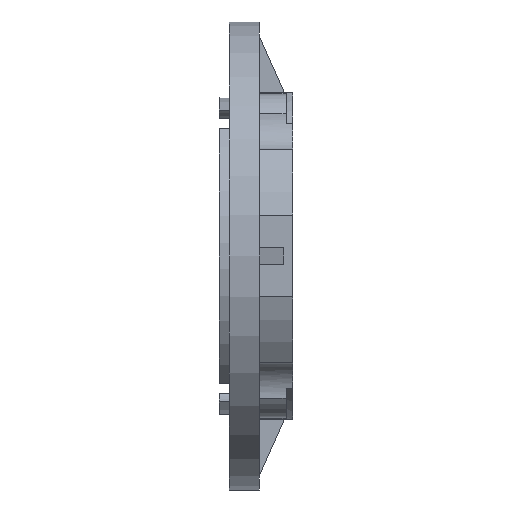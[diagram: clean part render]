
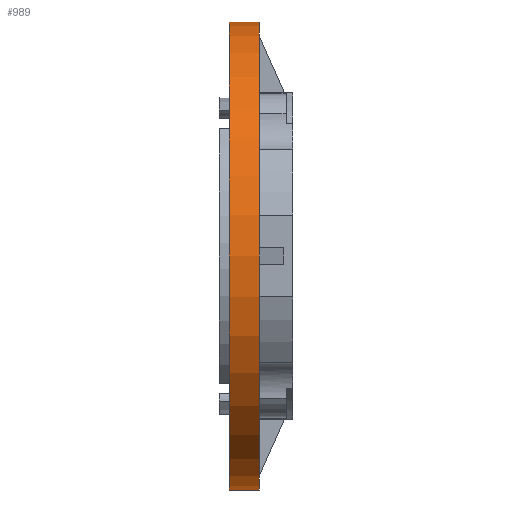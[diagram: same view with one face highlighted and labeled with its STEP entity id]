
A CAD part, front view. The second image highlights one B-rep face of the part: STEP entity #989.
In plain terms, the highlighted cylindrical face has radius 70 mm (diameter 140 mm), a partial arc.
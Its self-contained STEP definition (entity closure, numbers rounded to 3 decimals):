
#989=ADVANCED_FACE('',(#1115),#2830,.T.);
#1115=FACE_OUTER_BOUND('',#1241,.T.);
#1241=EDGE_LOOP('',(#1808,#1809,#1810,#1811));
#1808=ORIENTED_EDGE('',*,*,#2125,.T.);
#1809=ORIENTED_EDGE('',*,*,#2005,.T.);
#1810=ORIENTED_EDGE('',*,*,#2003,.T.);
#1811=ORIENTED_EDGE('',*,*,#2123,.F.);
#2003=EDGE_CURVE('',#2747,#2770,#2213,.T.);
#2005=EDGE_CURVE('',#2717,#2747,#2522,.T.);
#2123=EDGE_CURVE('',#2769,#2770,#2576,.T.);
#2125=EDGE_CURVE('',#2769,#2717,#2275,.T.);
#2213=TRIMMED_CURVE($,#2348,(#4376),(#4377),.T.,.CARTESIAN.);
#2275=TRIMMED_CURVE($,#2410,(#4697),(#4698),.T.,.CARTESIAN.);
#2348=CIRCLE('',#3238,70.);
#2410=CIRCLE('',#3300,70.);
#2522=B_SPLINE_CURVE_WITH_KNOTS('',1,(#4381,#4382),.UNSPECIFIED.,.F.,.F.,
(2,2),(0.9,9.9),.UNSPECIFIED.);
#2576=B_SPLINE_CURVE_WITH_KNOTS('',1,(#4691,#4692),.UNSPECIFIED.,.F.,.F.,
(2,2),(0.9,9.9),.UNSPECIFIED.);
#2717=VERTEX_POINT('',#3947);
#2747=VERTEX_POINT('',#3977);
#2769=VERTEX_POINT('',#3999);
#2770=VERTEX_POINT('',#4000);
#2830=CYLINDRICAL_SURFACE('',#3171,70.);
#3171=AXIS2_PLACEMENT_3D('',#3806,#3421,$);
#3238=AXIS2_PLACEMENT_3D($,#4375,#3544,#3545);
#3300=AXIS2_PLACEMENT_3D($,#4696,#3668,#3669);
#3421=DIRECTION('',(1.,0.,0.));
#3544=DIRECTION('',(-1.,0.,0.));
#3545=DIRECTION('',(0.,0.,-1.));
#3668=DIRECTION('',(1.,0.,0.));
#3669=DIRECTION('',(0.,0.,1.));
#3806=CARTESIAN_POINT('',(14.5,0.,0.));
#3947=CARTESIAN_POINT('',(10.,0.,-70.));
#3977=CARTESIAN_POINT('',(19.,0.,-70.));
#3999=CARTESIAN_POINT('',(10.,0.,70.));
#4000=CARTESIAN_POINT('',(19.,0.,70.));
#4375=CARTESIAN_POINT('',(19.,0.,0.));
#4376=CARTESIAN_POINT('',(19.,0.,-70.));
#4377=CARTESIAN_POINT('',(19.,0.,70.));
#4381=CARTESIAN_POINT('',(10.,0.,-70.));
#4382=CARTESIAN_POINT('',(19.,0.,-70.));
#4691=CARTESIAN_POINT('',(10.,0.,70.));
#4692=CARTESIAN_POINT('',(19.,0.,70.));
#4696=CARTESIAN_POINT('',(10.,0.,0.));
#4697=CARTESIAN_POINT('',(10.,0.,70.));
#4698=CARTESIAN_POINT('',(10.,0.,-70.));
